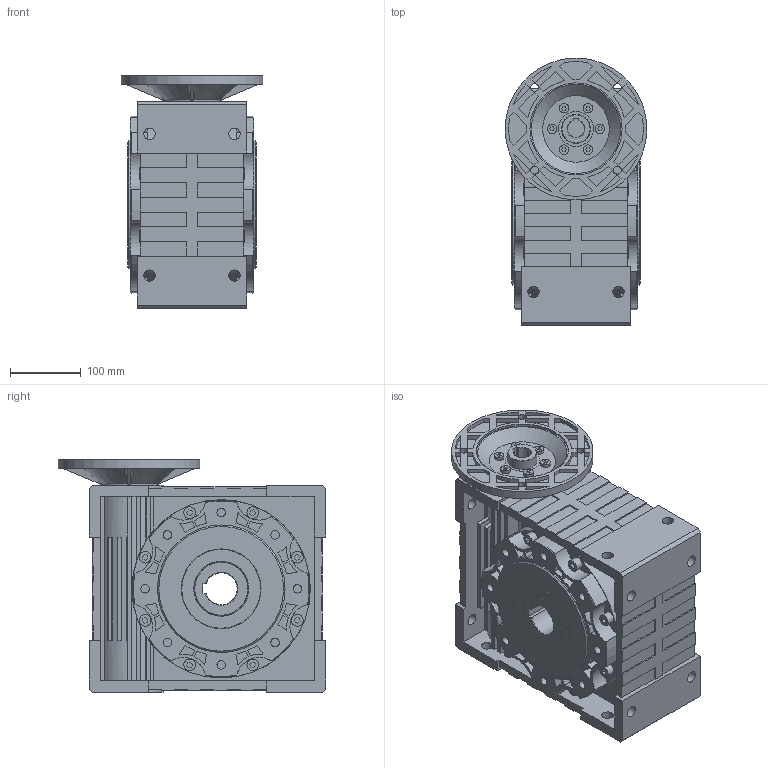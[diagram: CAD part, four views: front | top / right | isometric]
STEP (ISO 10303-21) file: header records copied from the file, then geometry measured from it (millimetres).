
FILE_DESCRIPTION(/* description */ (''),/* implementation_level */ '2;1');
FILE_NAME(/* name */ 'Z:\동력 3D 파일\PCMRV130_90B5_3D.stp',/* time_stamp */ '2021-12-01T17:37:43+09:00',/* author */ ('jaebok'),/* organization */ (''),/* preprocessor_version */ 'ST-DEVELOPER v18.1',/* originating_system */ 'Autodesk Inventor 2022',/* authorisation */ '');
FILE_SCHEMA (('AUTOMOTIVE_DESIGN { 1 0 10303 214 3 1 1 }'));
Length unit declared in the file: millimetre
Products named in the file (1): 부품59
Bounding box: 200 x 377.5 x 328 mm (x, y, z)
Volume: 13403931.5 mm3; surface area: 782943.8 mm2
Topology: 1 solids, 1 shells, 970 faces, 2490 edges, 1653 vertices
Faces by surface type: plane 642, cylinder 295, cone 33
Full cylindrical faces by diameter (mm): 11 x4, 12 x16, 13.331 x6, 16 x16, 16.5 x16, 40.8 x1, 48.96 x1, 76.5 x2, 79 x1, 89.75 x2, 91.75 x2, 112.5 x2, 130 x1, 180 x2, 200 x1, 251.6 x2
Entity records: 30822 total; most frequent: CARTESIAN_POINT 5558, DIRECTION 4986, ORIENTED_EDGE 4980, EDGE_CURVE 2490, LINE 1776, VECTOR 1776, VERTEX_POINT 1653, AXIS2_PLACEMENT_3D 1605
